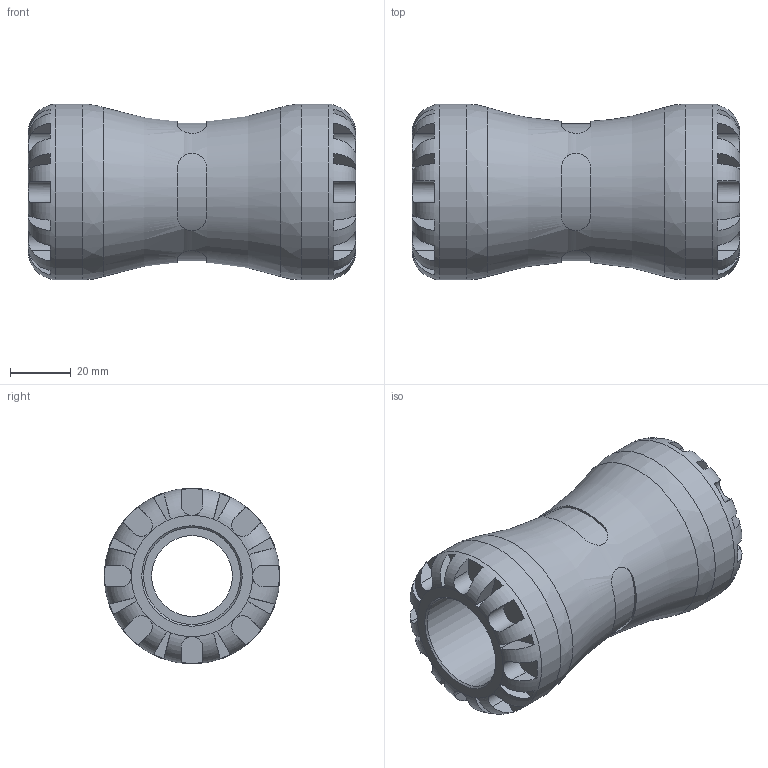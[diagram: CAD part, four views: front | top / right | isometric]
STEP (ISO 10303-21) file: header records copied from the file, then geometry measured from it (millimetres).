
FILE_DESCRIPTION(/* description */ ('PLASSON COUPLER 32X32 SERIES 1'),/* implementation_level */ '2;1');
FILE_NAME(/* name */ 'C:\Dropbox\KIMPROJECTS-Inventor\99-16-3568-Processing\1001\100100032_190100032.ipt.stp',/* time_stamp */ '2017-01-17T10:59:10+02:00',/* author */ ('KIM'),/* organization */ (''),/* preprocessor_version */ 'ST-DEVELOPER v15.6',/* originating_system */ 'Autodesk Inventor 2015',/* authorisation */ '');
FILE_SCHEMA (('AUTOMOTIVE_DESIGN { 1 0 10303 214 3 1 1 }'));
Length unit declared in the file: millimetre
Products named in the file (1): 100100032_190100032
Bounding box: 108 x 58 x 58 mm (x, y, z)
Volume: 143496.3 mm3; surface area: 34919 mm2
Topology: 1 solids, 1 shells, 164 faces, 419 edges, 262 vertices
Faces by surface type: plane 108, cylinder 49, torus 3, cone 2, bspline 2
Full cylindrical faces by diameter (mm): 26.667 x1, 32 x2, 58 x2
Entity records: 6444 total; most frequent: CARTESIAN_POINT 2475, ORIENTED_EDGE 808, DIRECTION 762, EDGE_CURVE 404, AXIS2_PLACEMENT_3D 309, VERTEX_POINT 258, EDGE_LOOP 182, STYLED_ITEM 165
